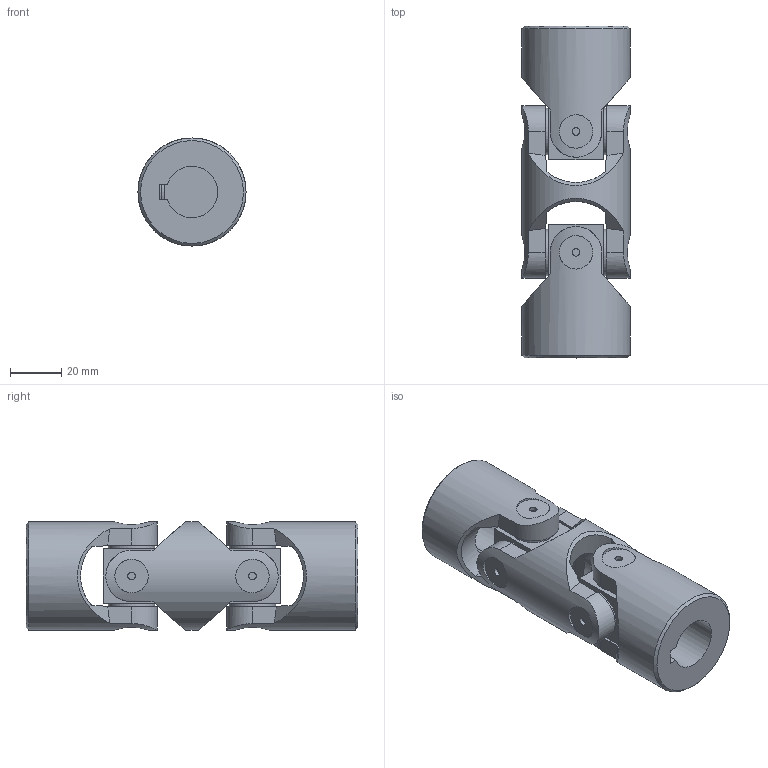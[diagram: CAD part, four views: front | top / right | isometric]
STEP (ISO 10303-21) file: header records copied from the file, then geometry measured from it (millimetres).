
FILE_DESCRIPTION(/* description */ (''),/* implementation_level */ '2;1');
FILE_NAME(/* name */ '\\SRV2016\Societa\Stefano\Disegni 3D\00Catalogo 3D\02Doppi GD-GBD\SG0D201C.stp',/* time_stamp */ '2021-11-23T12:25:26+01:00',/* author */ ('acquisti'),/* organization */ (''),/* preprocessor_version */ 'ST-DEVELOPER v15.6',/* originating_system */ 'Autodesk Inventor 2015',/* authorisation */ '');
FILE_SCHEMA (('AUTOMOTIVE_DESIGN { 1 0 10303 214 3 1 1 }'));
Length unit declared in the file: millimetre
Products named in the file (5): 3G MOD; 3G SFE; 3G MOC; 3G MOS; Ø42_3GD-00_SG0D2000
Assembly tree (5 placements, depth 2):
  Ø42_3GD-00_SG0D2000
    3G MOD
    3G SFE  x2
    3G MOC
    3G MOS
Bounding box: 42 x 129 x 42 mm (x, y, z)
Volume: 116767.5 mm3; surface area: 34778.5 mm2
Topology: 5 solids, 5 shells, 164 faces, 388 edges, 254 vertices
Faces by surface type: plane 73, cylinder 65, cone 22, torus 4
Full cylindrical faces by diameter (mm): 3 x8, 18 x8, 20 x1, 22 x3, 42 x3
Entity records: 5077 total; most frequent: CARTESIAN_POINT 1779, ORIENTED_EDGE 664, DIRECTION 627, EDGE_CURVE 332, AXIS2_PLACEMENT_3D 279, VERTEX_POINT 234, EDGE_LOOP 200, FACE_OUTER_BOUND 150
